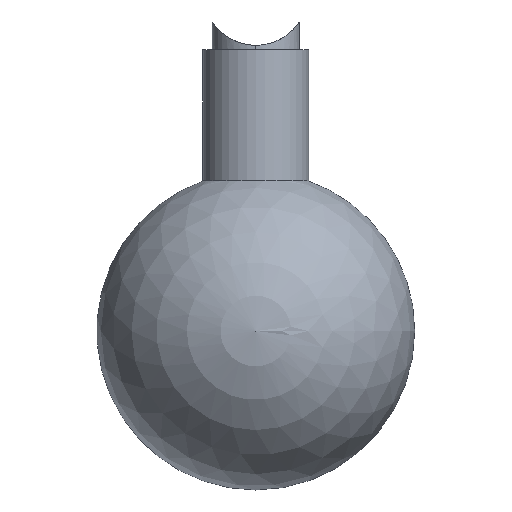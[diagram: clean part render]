
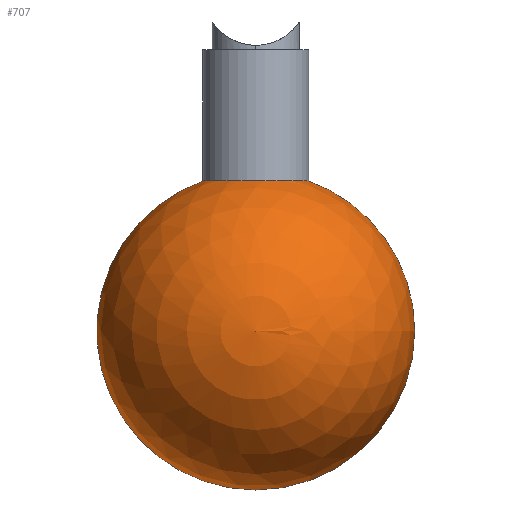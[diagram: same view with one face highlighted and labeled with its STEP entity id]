
A CAD part, left-side view. The second image highlights one B-rep face of the part: STEP entity #707.
In plain terms, the highlighted spherical face has radius 30 mm.
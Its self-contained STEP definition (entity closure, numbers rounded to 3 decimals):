
#16 = AXIS2_PLACEMENT_3D ( 'NONE', #651, #653, #31 ) ;
#26 = FACE_OUTER_BOUND ( 'NONE', #287, .T. ) ;
#31 = DIRECTION ( 'NONE',  ( 0., -1., 0. ) ) ;
#34 = DIRECTION ( 'NONE',  ( 0., 1., 0. ) ) ;
#71 = CARTESIAN_POINT ( 'NONE',  ( 0., 0., -41.897 ) ) ;
#159 = EDGE_CURVE ( 'NONE', #285, #725, #594, .T. ) ;
#164 = DIRECTION ( 'NONE',  ( 0., 0., 1. ) ) ;
#188 = AXIS2_PLACEMENT_3D ( 'NONE', #71, #495, #692 ) ;
#275 = ORIENTED_EDGE ( 'NONE', *, *, #446, .T. ) ;
#285 = VERTEX_POINT ( 'NONE', #599 ) ;
#287 = EDGE_LOOP ( 'NONE', ( #788, #275, #677 ) ) ;
#377 = CIRCLE ( 'NONE', #188, 30. ) ;
#398 = VERTEX_POINT ( 'NONE', #550 ) ;
#408 = AXIS2_PLACEMENT_3D ( 'NONE', #586, #534, #34 ) ;
#409 = CARTESIAN_POINT ( 'NONE',  ( 0., 0., -13.5 ) ) ;
#431 = AXIS2_PLACEMENT_3D ( 'NONE', #409, #164, #593 ) ;
#446 = EDGE_CURVE ( 'NONE', #285, #398, #377, .T. ) ;
#447 = CIRCLE ( 'NONE', #431, 9.676 ) ;
#458 = CARTESIAN_POINT ( 'NONE',  ( 0., 9.676, -13.5 ) ) ;
#495 = DIRECTION ( 'NONE',  ( -1., 0., 0. ) ) ;
#534 = DIRECTION ( 'NONE',  ( 1., 0., 0. ) ) ;
#550 = CARTESIAN_POINT ( 'NONE',  ( 0., -9.676, -13.5 ) ) ;
#586 = CARTESIAN_POINT ( 'NONE',  ( 0., 0., -41.897 ) ) ;
#593 = DIRECTION ( 'NONE',  ( 0., -1., 0. ) ) ;
#594 = CIRCLE ( 'NONE', #408, 30. ) ;
#599 = CARTESIAN_POINT ( 'NONE',  ( 0., 0., -71.897 ) ) ;
#651 = CARTESIAN_POINT ( 'NONE',  ( 0., 0., -41.897 ) ) ;
#653 = DIRECTION ( 'NONE',  ( 1., 0., 0. ) ) ;
#677 = ORIENTED_EDGE ( 'NONE', *, *, #810, .F. ) ;
#692 = DIRECTION ( 'NONE',  ( 0., 0., 1. ) ) ;
#707 = ADVANCED_FACE ( 'NONE', ( #26 ), #733, .T. ) ;
#725 = VERTEX_POINT ( 'NONE', #458 ) ;
#733 = SPHERICAL_SURFACE ( 'NONE', #16, 30. ) ;
#788 = ORIENTED_EDGE ( 'NONE', *, *, #159, .F. ) ;
#810 = EDGE_CURVE ( 'NONE', #725, #398, #447, .T. ) ;
